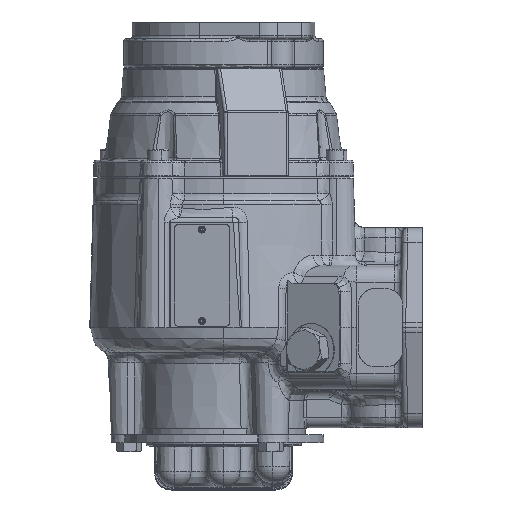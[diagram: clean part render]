
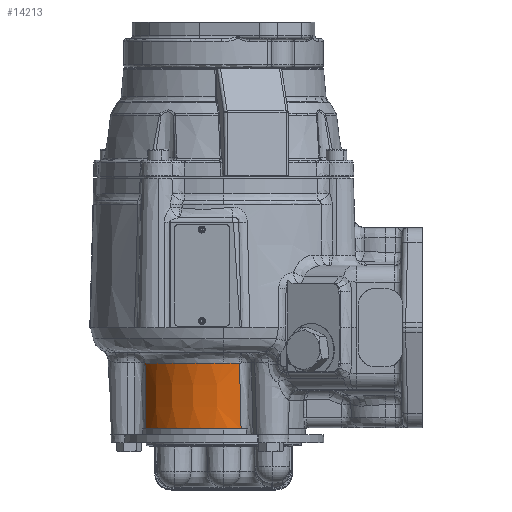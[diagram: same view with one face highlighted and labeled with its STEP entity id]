
A CAD part, left-side view. The second image highlights one B-rep face of the part: STEP entity #14213.
In plain terms, the highlighted conical face has half-angle 1 degrees and reference radius 47.516 mm.
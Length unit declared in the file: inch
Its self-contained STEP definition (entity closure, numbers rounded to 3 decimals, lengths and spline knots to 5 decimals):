
#1654 = DIRECTION ( 'NONE',  ( 0., 0., -1. ) ) ;
#1692 = DIRECTION ( 'NONE',  ( 0., 0., -1. ) ) ;
#4565 = EDGE_LOOP ( 'NONE', ( #65146, #46708, #18025, #12254, #9351 ) ) ;
#5680 = DIRECTION ( 'NONE',  ( 0.702, -0.712, 0. ) ) ;
#9351 = ORIENTED_EDGE ( 'NONE', *, *, #93328, .T. ) ;
#12254 = ORIENTED_EDGE ( 'NONE', *, *, #60438, .F. ) ;
#12972 = VERTEX_POINT ( 'NONE', #18841 ) ;
#14213 = ADVANCED_FACE ( 'NONE', ( #66299 ), #59645, .T. ) ;
#16019 = AXIS2_PLACEMENT_3D ( 'NONE', #78768, #1692, #53401 ) ;
#16445 = CIRCLE ( 'NONE', #19995, 1.87071 ) ;
#18025 = ORIENTED_EDGE ( 'NONE', *, *, #36594, .T. ) ;
#18216 = CARTESIAN_POINT ( 'NONE',  ( -3.33312, 3.17647, -0.36839 ) ) ;
#18708 = VERTEX_POINT ( 'NONE', #31629 ) ;
#18764 = CARTESIAN_POINT ( 'NONE',  ( -3.33408, 3.12836, -1.85235 ) ) ;
#18841 = CARTESIAN_POINT ( 'NONE',  ( -3.10185, 3.45347, -0.36839 ) ) ;
#19995 = AXIS2_PLACEMENT_3D ( 'NONE', #39929, #100809, #5680 ) ;
#23027 = CARTESIAN_POINT ( 'NONE',  ( -1.78818, 2.12162, -0.36839 ) ) ;
#25545 = AXIS2_PLACEMENT_3D ( 'NONE', #23027, #32539, #92242 ) ;
#31629 = CARTESIAN_POINT ( 'NONE',  ( -0.93024, 3.75479, -1.85235 ) ) ;
#32539 = DIRECTION ( 'NONE',  ( 0., 0., 1. ) ) ;
#33150 = B_SPLINE_CURVE_WITH_KNOTS ( 'NONE', 3,
 ( #44760, #43080, #94914, #86458 ),
 .UNSPECIFIED., .F., .F.,
 ( 4, 4 ),
 ( 0., 1. ),
 .UNSPECIFIED. ) ;
#36594 = EDGE_CURVE ( 'NONE', #38771, #18708, #33150, .T. ) ;
#38771 = VERTEX_POINT ( 'NONE', #55464 ) ;
#39929 = CARTESIAN_POINT ( 'NONE',  ( -1.78818, 2.12162, -0.36839 ) ) ;
#41656 = VERTEX_POINT ( 'NONE', #71333 ) ;
#43080 = CARTESIAN_POINT ( 'NONE',  ( -0.94624, 3.78244, -0.86782 ) ) ;
#44760 = CARTESIAN_POINT ( 'NONE',  ( -0.95456, 3.79632, -0.36839 ) ) ;
#45181 = CARTESIAN_POINT ( 'NONE',  ( -3.33361, 3.1603, -0.86782 ) ) ;
#46708 = ORIENTED_EDGE ( 'NONE', *, *, #83562, .T. ) ;
#48330 = CIRCLE ( 'NONE', #16019, 1.87071 ) ;
#53401 = DIRECTION ( 'NONE',  ( 0.702, -0.712, 0. ) ) ;
#55464 = CARTESIAN_POINT ( 'NONE',  ( -0.95456, 3.79632, -0.36839 ) ) ;
#56849 = VERTEX_POINT ( 'NONE', #77893 ) ;
#59098 = EDGE_CURVE ( 'NONE', #41656, #12972, #16445, .T. ) ;
#59645 = CONICAL_SURFACE ( 'NONE', #25545, 1.87071, 0.017 ) ;
#60438 = EDGE_CURVE ( 'NONE', #56849, #18708, #68579, .T. ) ;
#63266 = AXIS2_PLACEMENT_3D ( 'NONE', #97888, #1654, #88867 ) ;
#65146 = ORIENTED_EDGE ( 'NONE', *, *, #59098, .T. ) ;
#66299 = FACE_OUTER_BOUND ( 'NONE', #4565, .T. ) ;
#68579 = CIRCLE ( 'NONE', #63266, 1.84481 ) ;
#71333 = CARTESIAN_POINT ( 'NONE',  ( -3.33312, 3.17647, -0.36839 ) ) ;
#77893 = CARTESIAN_POINT ( 'NONE',  ( -3.33408, 3.12836, -1.85235 ) ) ;
#78768 = CARTESIAN_POINT ( 'NONE',  ( -1.78818, 2.12162, -0.36839 ) ) ;
#80087 = CARTESIAN_POINT ( 'NONE',  ( -3.33392, 3.14426, -1.36248 ) ) ;
#83562 = EDGE_CURVE ( 'NONE', #12972, #38771, #48330, .T. ) ;
#86458 = CARTESIAN_POINT ( 'NONE',  ( -0.93024, 3.75479, -1.85235 ) ) ;
#88867 = DIRECTION ( 'NONE',  ( 0.702, -0.712, 0. ) ) ;
#89442 = B_SPLINE_CURVE_WITH_KNOTS ( 'NONE', 3,
 ( #18764, #80087, #45181, #18216 ),
 .UNSPECIFIED., .F., .F.,
 ( 4, 4 ),
 ( 0., 1. ),
 .UNSPECIFIED. ) ;
#92242 = DIRECTION ( 'NONE',  ( 0.702, -0.712, 0. ) ) ;
#93328 = EDGE_CURVE ( 'NONE', #56849, #41656, #89442, .T. ) ;
#94914 = CARTESIAN_POINT ( 'NONE',  ( -0.93814, 3.7686, -1.36248 ) ) ;
#97888 = CARTESIAN_POINT ( 'NONE',  ( -1.78818, 2.12162, -1.85235 ) ) ;
#100809 = DIRECTION ( 'NONE',  ( 0., 0., -1. ) ) ;
